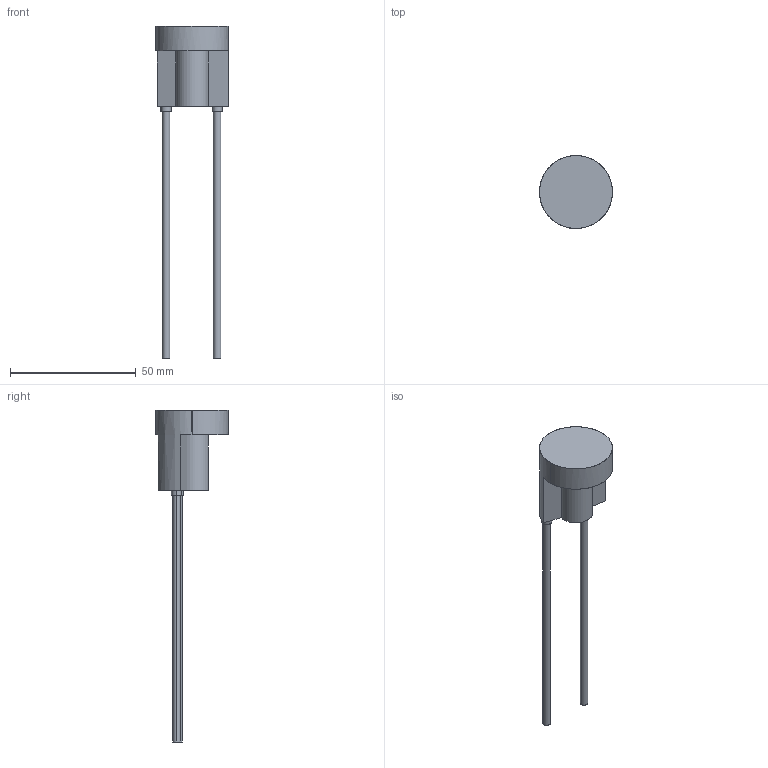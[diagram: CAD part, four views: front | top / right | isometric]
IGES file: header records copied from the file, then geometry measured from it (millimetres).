
Start section: SolidWorks IGES file using analytic representation for surfaces
Global section: file name: C:\Users\Toshiba\Desktop\FR-1PRNA.IGS; native system: SolidWorks 2014; preprocessor: SolidWorks 2014; author: Toshiba; date: 160621.090206; units: metre
Bounding box: 29 x 29 x 131.9 mm (x, y, z)
Surface area: 6030.9 mm2 (no closed solid volume)
Topology: 0 solids, 0 shells, 24 faces, 487 edges, 487 vertices
Faces by surface type: revolution 12, bspline 12
